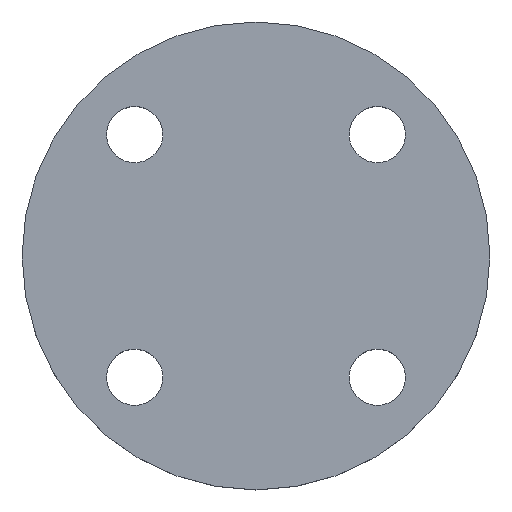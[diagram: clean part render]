
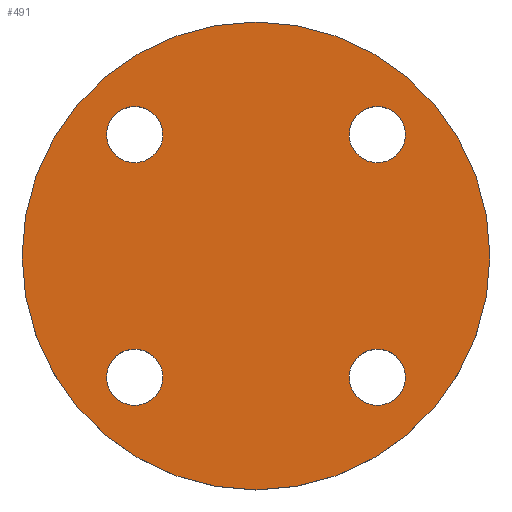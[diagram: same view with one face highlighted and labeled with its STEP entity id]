
A CAD part, top view. The second image highlights one B-rep face of the part: STEP entity #491.
In plain terms, the highlighted planar face has unit normal (0, 0, 1).
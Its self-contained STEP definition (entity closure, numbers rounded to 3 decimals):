
#1 = EDGE_CURVE ( 'NONE', #341, #343, #183, .T. ) ;
#7 = EDGE_CURVE ( 'NONE', #218, #324, #165, .T. ) ;
#9 = AXIS2_PLACEMENT_3D ( 'NONE', #482, #483, #484 ) ;
#14 = CIRCLE ( 'NONE', #161, 75. ) ;
#17 = EDGE_CURVE ( 'NONE', #276, #234, #14, .T. ) ;
#29 = AXIS2_PLACEMENT_3D ( 'NONE', #127, #128, #129 ) ;
#36 = DIRECTION ( 'NONE',  ( -1., 0., 0. ) ) ;
#37 = DIRECTION ( 'NONE',  ( 0., 0., -1. ) ) ;
#40 = AXIS2_PLACEMENT_3D ( 'NONE', #511, #512, #513 ) ;
#62 = AXIS2_PLACEMENT_3D ( 'NONE', #86, #37, #36 ) ;
#64 = CIRCLE ( 'NONE', #62, 9. ) ;
#65 = AXIS2_PLACEMENT_3D ( 'NONE', #554, #555, #556 ) ;
#68 = CIRCLE ( 'NONE', #65, 75. ) ;
#72 = CIRCLE ( 'NONE', #9, 9. ) ;
#86 = CARTESIAN_POINT ( 'NONE',  ( -38.891, 38.891, 0. ) ) ;
#87 = AXIS2_PLACEMENT_3D ( 'NONE', #445, #446, #447 ) ;
#88 = AXIS2_PLACEMENT_3D ( 'NONE', #428, #429, #430 ) ;
#89 = CIRCLE ( 'NONE', #88, 9. ) ;
#104 = AXIS2_PLACEMENT_3D ( 'NONE', #522, #523, #524 ) ;
#105 = CIRCLE ( 'NONE', #104, 9. ) ;
#117 = FACE_BOUND ( 'NONE', #326, .T. ) ;
#118 = FACE_BOUND ( 'NONE', #338, .T. ) ;
#119 = FACE_BOUND ( 'NONE', #205, .T. ) ;
#122 = FACE_BOUND ( 'NONE', #216, .T. ) ;
#123 = FACE_OUTER_BOUND ( 'NONE', #232, .T. ) ;
#124 = EDGE_CURVE ( 'NONE', #317, #258, #89, .T. ) ;
#126 = PLANE ( 'NONE',  #29 ) ;
#127 = CARTESIAN_POINT ( 'NONE',  ( 0., 0., 0. ) ) ;
#128 = DIRECTION ( 'NONE',  ( 0., 0., 1. ) ) ;
#129 = DIRECTION ( 'NONE',  ( 1., 0., 0. ) ) ;
#161 = AXIS2_PLACEMENT_3D ( 'NONE', #369, #370, #371 ) ;
#163 = AXIS2_PLACEMENT_3D ( 'NONE', #360, #361, #362 ) ;
#165 = CIRCLE ( 'NONE', #163, 9. ) ;
#168 = EDGE_CURVE ( 'NONE', #319, #304, #178, .T. ) ;
#178 = CIRCLE ( 'NONE', #87, 9. ) ;
#181 = AXIS2_PLACEMENT_3D ( 'NONE', #345, #346, #347 ) ;
#183 = CIRCLE ( 'NONE', #181, 9. ) ;
#186 = EDGE_CURVE ( 'NONE', #258, #317, #72, .T. ) ;
#195 = CIRCLE ( 'NONE', #40, 9. ) ;
#205 = EDGE_LOOP ( 'NONE', ( #265, #266 ) ) ;
#216 = EDGE_LOOP ( 'NONE', ( #267, #268 ) ) ;
#218 = VERTEX_POINT ( 'NONE', #510 ) ;
#219 = EDGE_CURVE ( 'NONE', #343, #341, #195, .T. ) ;
#232 = EDGE_LOOP ( 'NONE', ( #269, #271 ) ) ;
#234 = VERTEX_POINT ( 'NONE', #518 ) ;
#250 = EDGE_CURVE ( 'NONE', #304, #319, #105, .T. ) ;
#258 = VERTEX_POINT ( 'NONE', #525 ) ;
#261 = ORIENTED_EDGE ( 'NONE', *, *, #1, .T. ) ;
#262 = ORIENTED_EDGE ( 'NONE', *, *, #219, .T. ) ;
#263 = ORIENTED_EDGE ( 'NONE', *, *, #250, .T. ) ;
#264 = ORIENTED_EDGE ( 'NONE', *, *, #168, .T. ) ;
#265 = ORIENTED_EDGE ( 'NONE', *, *, #7, .T. ) ;
#266 = ORIENTED_EDGE ( 'NONE', *, *, #357, .T. ) ;
#267 = ORIENTED_EDGE ( 'NONE', *, *, #186, .T. ) ;
#268 = ORIENTED_EDGE ( 'NONE', *, *, #124, .T. ) ;
#269 = ORIENTED_EDGE ( 'NONE', *, *, #320, .T. ) ;
#271 = ORIENTED_EDGE ( 'NONE', *, *, #17, .T. ) ;
#276 = VERTEX_POINT ( 'NONE', #531 ) ;
#304 = VERTEX_POINT ( 'NONE', #550 ) ;
#317 = VERTEX_POINT ( 'NONE', #552 ) ;
#319 = VERTEX_POINT ( 'NONE', #553 ) ;
#320 = EDGE_CURVE ( 'NONE', #234, #276, #68, .T. ) ;
#324 = VERTEX_POINT ( 'NONE', #557 ) ;
#326 = EDGE_LOOP ( 'NONE', ( #261, #262 ) ) ;
#338 = EDGE_LOOP ( 'NONE', ( #263, #264 ) ) ;
#341 = VERTEX_POINT ( 'NONE', #566 ) ;
#343 = VERTEX_POINT ( 'NONE', #567 ) ;
#345 = CARTESIAN_POINT ( 'NONE',  ( 38.891, -38.891, 0. ) ) ;
#346 = DIRECTION ( 'NONE',  ( 0., 0., -1. ) ) ;
#347 = DIRECTION ( 'NONE',  ( -1., 0., 0. ) ) ;
#357 = EDGE_CURVE ( 'NONE', #324, #218, #64, .T. ) ;
#360 = CARTESIAN_POINT ( 'NONE',  ( -38.891, 38.891, 0. ) ) ;
#361 = DIRECTION ( 'NONE',  ( 0., 0., -1. ) ) ;
#362 = DIRECTION ( 'NONE',  ( -1., 0., 0. ) ) ;
#369 = CARTESIAN_POINT ( 'NONE',  ( 0., 0., 0. ) ) ;
#370 = DIRECTION ( 'NONE',  ( 0., 0., 1. ) ) ;
#371 = DIRECTION ( 'NONE',  ( 1., 0., 0. ) ) ;
#428 = CARTESIAN_POINT ( 'NONE',  ( 38.891, 38.891, 0. ) ) ;
#429 = DIRECTION ( 'NONE',  ( 0., 0., -1. ) ) ;
#430 = DIRECTION ( 'NONE',  ( -1., 0., 0. ) ) ;
#445 = CARTESIAN_POINT ( 'NONE',  ( -38.891, -38.891, 0. ) ) ;
#446 = DIRECTION ( 'NONE',  ( 0., 0., -1. ) ) ;
#447 = DIRECTION ( 'NONE',  ( -1., 0., 0. ) ) ;
#482 = CARTESIAN_POINT ( 'NONE',  ( 38.891, 38.891, 0. ) ) ;
#483 = DIRECTION ( 'NONE',  ( 0., 0., -1. ) ) ;
#484 = DIRECTION ( 'NONE',  ( -1., 0., 0. ) ) ;
#491 = ADVANCED_FACE ( 'NONE', ( #117, #118, #119, #122, #123 ), #126, .T. ) ;
#510 = CARTESIAN_POINT ( 'NONE',  ( -29.891, 38.891, 0. ) ) ;
#511 = CARTESIAN_POINT ( 'NONE',  ( 38.891, -38.891, 0. ) ) ;
#512 = DIRECTION ( 'NONE',  ( 0., 0., -1. ) ) ;
#513 = DIRECTION ( 'NONE',  ( -1., 0., 0. ) ) ;
#518 = CARTESIAN_POINT ( 'NONE',  ( 75., 0., 0. ) ) ;
#522 = CARTESIAN_POINT ( 'NONE',  ( -38.891, -38.891, 0. ) ) ;
#523 = DIRECTION ( 'NONE',  ( 0., 0., -1. ) ) ;
#524 = DIRECTION ( 'NONE',  ( -1., 0., 0. ) ) ;
#525 = CARTESIAN_POINT ( 'NONE',  ( 47.891, 38.891, 0. ) ) ;
#531 = CARTESIAN_POINT ( 'NONE',  ( -75., 0., 0. ) ) ;
#550 = CARTESIAN_POINT ( 'NONE',  ( -29.891, -38.891, 0. ) ) ;
#552 = CARTESIAN_POINT ( 'NONE',  ( 29.891, 38.891, 0. ) ) ;
#553 = CARTESIAN_POINT ( 'NONE',  ( -47.891, -38.891, 0. ) ) ;
#554 = CARTESIAN_POINT ( 'NONE',  ( 0., 0., 0. ) ) ;
#555 = DIRECTION ( 'NONE',  ( 0., 0., 1. ) ) ;
#556 = DIRECTION ( 'NONE',  ( 1., 0., 0. ) ) ;
#557 = CARTESIAN_POINT ( 'NONE',  ( -47.891, 38.891, 0. ) ) ;
#566 = CARTESIAN_POINT ( 'NONE',  ( 47.891, -38.891, 0. ) ) ;
#567 = CARTESIAN_POINT ( 'NONE',  ( 29.891, -38.891, 0. ) ) ;
